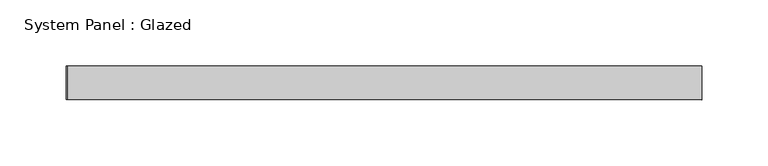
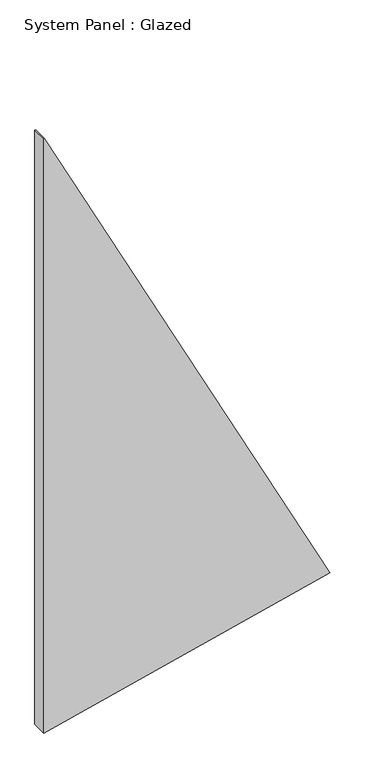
"""IFC4 building model written with IfcOpenShell, lengths in millimetres: plate geometry, System Panel : Glazed."""

from ifc_helpers import new_model, si_unit, frame, origin, place, context, project, spatial, polyline, outline, extrude, source, transform, mapped, element, save


def system_panel_glazed_48acb493(model_context):
    return source(origin(), model_context, "Body", "SweptSolid", [
        extrude(outline(polyline([(0.0, -240.0789405), (115.6347882, 240.0871142), (1052.5040057, -238.9230269), (1052.2236673, -240.0871142), (0.0, -240.0789405)])), frame((0.0, -44.45, 0.0), z_axis=(0.0, 1.0, 0.0), x_axis=(0.0, 0.0, 1.0)), (0.0, 0.0, 1.0), 25.4),
    ])


if __name__ == "__main__":
    model = new_model("IFC4")
    model_context = context("Model", 3, world=origin())
    ifc_project = project(units=[si_unit("LENGTHUNIT", "METRE", prefix="MILLI")], contexts=[model_context])
    site = spatial("IfcSite", under=ifc_project)
    building = spatial("IfcBuilding", under=site)
    placement = place(None, origin())
    system_panel_glazed_shape = system_panel_glazed_48acb493(model_context)
    element("IfcPlate", 1, ObjectType="System Panel : Glazed", at=placement, inside=building, context=model_context, shape_type="MappedRepresentation", body=[
        mapped(system_panel_glazed_shape, transform((0.0, 0.0, 0.0), x_axis=(1.0, 0.0, 0.0), y_axis=(0.0, 1.0, 0.0), z_axis=(0.0, 0.0, 1.0))),
    ])
    save(model, "model.ifc")
